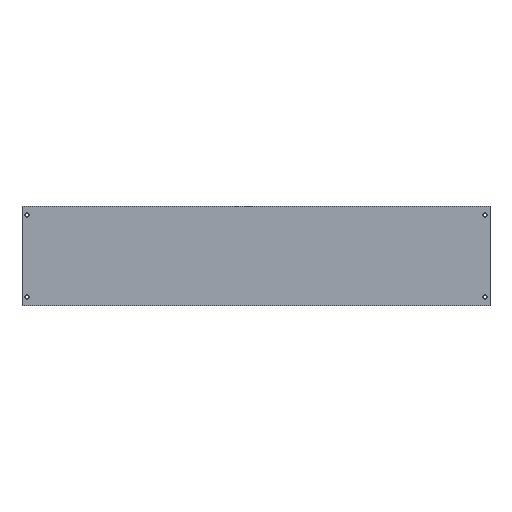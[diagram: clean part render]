
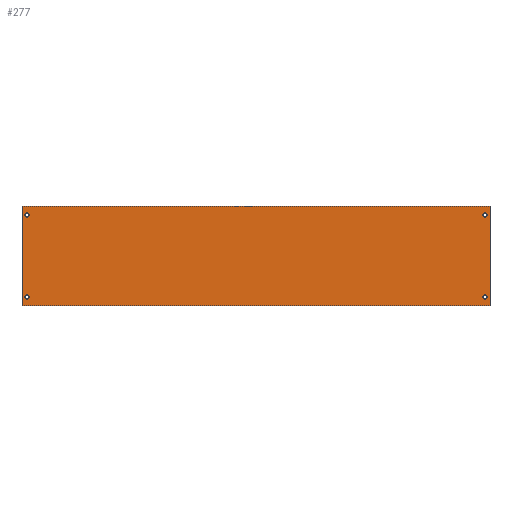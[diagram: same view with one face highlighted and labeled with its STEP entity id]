
A CAD part, top view. The second image highlights one B-rep face of the part: STEP entity #277.
In plain terms, the highlighted planar face has unit normal (0, 0, 1).
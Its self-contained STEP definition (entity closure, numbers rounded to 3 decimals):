
#13=DIRECTION('',(1.,0.,0.));
#14=VECTOR('',#13,188.);
#15=CARTESIAN_POINT('',(0.,0.,0.));
#16=LINE('',#15,#14);
#17=CARTESIAN_POINT('',(2.,36.5,0.));
#18=DIRECTION('',(0.,0.,1.));
#19=DIRECTION('',(-1.,0.,0.));
#20=AXIS2_PLACEMENT_3D('',#17,#18,#19);
#22=CARTESIAN_POINT('',(2.,36.5,0.));
#23=DIRECTION('',(0.,0.,1.));
#24=DIRECTION('',(1.,0.,0.));
#25=AXIS2_PLACEMENT_3D('',#22,#23,#24);
#27=CARTESIAN_POINT('',(2.,3.5,0.));
#28=DIRECTION('',(0.,0.,1.));
#29=DIRECTION('',(-1.,0.,0.));
#30=AXIS2_PLACEMENT_3D('',#27,#28,#29);
#32=CARTESIAN_POINT('',(2.,3.5,0.));
#33=DIRECTION('',(0.,0.,1.));
#34=DIRECTION('',(1.,0.,0.));
#35=AXIS2_PLACEMENT_3D('',#32,#33,#34);
#37=CARTESIAN_POINT('',(186.,36.5,0.));
#38=DIRECTION('',(0.,0.,1.));
#39=DIRECTION('',(-1.,0.,0.));
#40=AXIS2_PLACEMENT_3D('',#37,#38,#39);
#42=CARTESIAN_POINT('',(186.,36.5,0.));
#43=DIRECTION('',(0.,0.,1.));
#44=DIRECTION('',(1.,0.,0.));
#45=AXIS2_PLACEMENT_3D('',#42,#43,#44);
#47=CARTESIAN_POINT('',(186.,3.5,0.));
#48=DIRECTION('',(0.,0.,1.));
#49=DIRECTION('',(-1.,0.,0.));
#50=AXIS2_PLACEMENT_3D('',#47,#48,#49);
#52=CARTESIAN_POINT('',(186.,3.5,0.));
#53=DIRECTION('',(0.,0.,1.));
#54=DIRECTION('',(1.,0.,0.));
#55=AXIS2_PLACEMENT_3D('',#52,#53,#54);
#57=DIRECTION('',(0.,-1.,0.));
#58=VECTOR('',#57,40.);
#59=CARTESIAN_POINT('',(188.,40.,0.));
#60=LINE('',#59,#58);
#61=DIRECTION('',(0.,-1.,0.));
#62=VECTOR('',#61,40.);
#63=CARTESIAN_POINT('',(0.,40.,0.));
#64=LINE('',#63,#62);
#149=DIRECTION('',(1.,0.,0.));
#150=VECTOR('',#149,188.);
#151=CARTESIAN_POINT('',(0.,40.,0.));
#152=LINE('',#151,#150);
#161=CARTESIAN_POINT('',(1.35,36.5,0.));
#162=CARTESIAN_POINT('',(2.65,36.5,0.));
#163=VERTEX_POINT('',#161);
#164=VERTEX_POINT('',#162);
#169=CARTESIAN_POINT('',(1.35,3.5,0.));
#170=CARTESIAN_POINT('',(2.65,3.5,0.));
#171=VERTEX_POINT('',#169);
#172=VERTEX_POINT('',#170);
#177=CARTESIAN_POINT('',(185.35,36.5,0.));
#178=CARTESIAN_POINT('',(186.65,36.5,0.));
#179=VERTEX_POINT('',#177);
#180=VERTEX_POINT('',#178);
#185=CARTESIAN_POINT('',(185.35,3.5,0.));
#186=CARTESIAN_POINT('',(186.65,3.5,0.));
#187=VERTEX_POINT('',#185);
#188=VERTEX_POINT('',#186);
#193=CARTESIAN_POINT('',(0.,0.,0.));
#195=VERTEX_POINT('',#193);
#199=CARTESIAN_POINT('',(0.,40.,0.));
#200=VERTEX_POINT('',#199);
#202=CARTESIAN_POINT('',(188.,0.,0.));
#204=VERTEX_POINT('',#202);
#205=CARTESIAN_POINT('',(188.,40.,0.));
#206=VERTEX_POINT('',#205);
#240=CARTESIAN_POINT('',(0.,0.,0.));
#241=DIRECTION('',(0.,0.,1.));
#242=DIRECTION('',(1.,0.,0.));
#243=AXIS2_PLACEMENT_3D('',#240,#241,#242);
#244=PLANE('',#243);
#245=ORIENTED_EDGE('',*,*,#231,.T.);
#246=ORIENTED_EDGE('',*,*,#220,.F.);
#248=ORIENTED_EDGE('',*,*,#247,.F.);
#250=ORIENTED_EDGE('',*,*,#249,.T.);
#251=EDGE_LOOP('',(#245,#246,#248,#250));
#252=FACE_OUTER_BOUND('',#251,.F.);
#254=ORIENTED_EDGE('',*,*,#253,.T.);
#256=ORIENTED_EDGE('',*,*,#255,.T.);
#257=EDGE_LOOP('',(#254,#256));
#258=FACE_BOUND('',#257,.F.);
#260=ORIENTED_EDGE('',*,*,#259,.T.);
#262=ORIENTED_EDGE('',*,*,#261,.T.);
#263=EDGE_LOOP('',(#260,#262));
#264=FACE_BOUND('',#263,.F.);
#266=ORIENTED_EDGE('',*,*,#265,.T.);
#268=ORIENTED_EDGE('',*,*,#267,.T.);
#269=EDGE_LOOP('',(#266,#268));
#270=FACE_BOUND('',#269,.F.);
#272=ORIENTED_EDGE('',*,*,#271,.T.);
#274=ORIENTED_EDGE('',*,*,#273,.T.);
#275=EDGE_LOOP('',(#272,#274));
#276=FACE_BOUND('',#275,.F.);
#277=ADVANCED_FACE('',(#252,#258,#264,#270,#276),#244,.T.);
#21=CIRCLE('',#20,0.65);
#26=CIRCLE('',#25,0.65);
#31=CIRCLE('',#30,0.65);
#36=CIRCLE('',#35,0.65);
#41=CIRCLE('',#40,0.65);
#46=CIRCLE('',#45,0.65);
#51=CIRCLE('',#50,0.65);
#56=CIRCLE('',#55,0.65);
#220=EDGE_CURVE('',#195,#204,#16,.T.);
#231=EDGE_CURVE('',#206,#204,#60,.T.);
#247=EDGE_CURVE('',#200,#195,#64,.T.);
#249=EDGE_CURVE('',#200,#206,#152,.T.);
#253=EDGE_CURVE('',#171,#172,#31,.T.);
#255=EDGE_CURVE('',#172,#171,#36,.T.);
#259=EDGE_CURVE('',#179,#180,#41,.T.);
#261=EDGE_CURVE('',#180,#179,#46,.T.);
#265=EDGE_CURVE('',#187,#188,#51,.T.);
#267=EDGE_CURVE('',#188,#187,#56,.T.);
#271=EDGE_CURVE('',#163,#164,#21,.T.);
#273=EDGE_CURVE('',#164,#163,#26,.T.);
